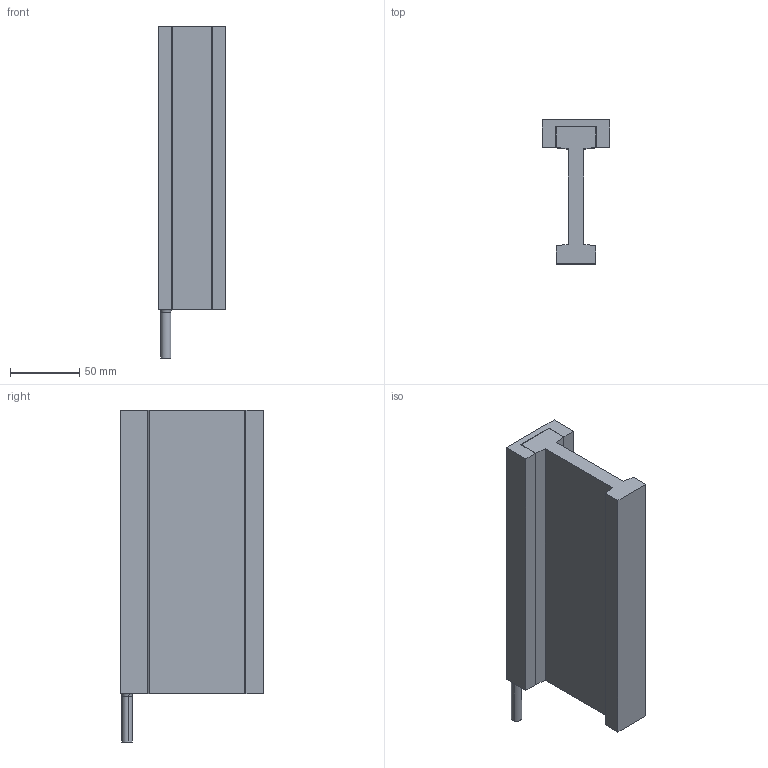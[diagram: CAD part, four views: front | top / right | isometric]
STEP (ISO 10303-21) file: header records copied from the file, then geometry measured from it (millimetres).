
FILE_DESCRIPTION (( 'STEP AP214' ), '1' );
FILE_NAME ('DX65F-C3-NH.step', '2022-09-22T03:41:52', ( '' ), ( '' ), 'SwSTEP 2.0', 'SolidWorks 2020', '' );
FILE_SCHEMA (( 'AUTOMOTIVE_DESIGN' ));
Length unit declared in the file: millimetre
Products named in the file (1): DX65F-C3-NH
Bounding box: 49 x 104 x 240 mm (x, y, z)
Volume: 439402.9 mm3; surface area: 100534.9 mm2
Topology: 3 solids, 3 shells, 77 faces, 184 edges, 108 vertices
Faces by surface type: plane 31, cylinder 28, cone 16, torus 2
Entity records: 3007 total; most frequent: DIRECTION 382, CARTESIAN_POINT 354, ORIENTED_EDGE 336, EDGE_CURVE 168, AXIS2_PLACEMENT_3D 136, LINE 110, VECTOR 110, VERTEX_POINT 108
